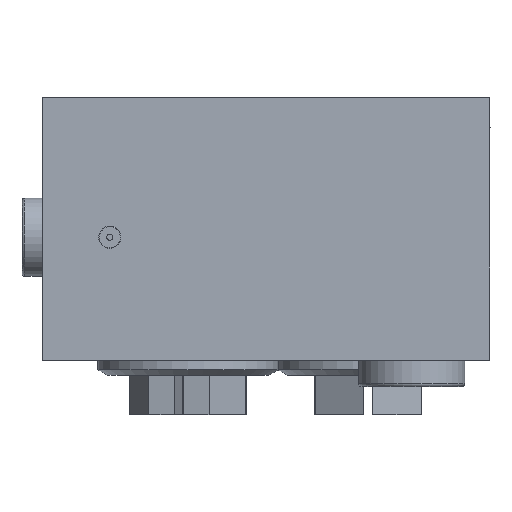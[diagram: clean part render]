
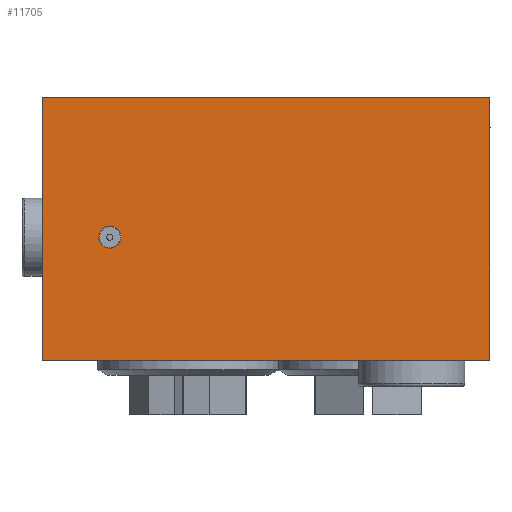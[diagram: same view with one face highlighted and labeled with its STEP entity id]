
A CAD part, left-side view. The second image highlights one B-rep face of the part: STEP entity #11705.
In plain terms, the highlighted planar face has unit normal (-1, 0, 0).
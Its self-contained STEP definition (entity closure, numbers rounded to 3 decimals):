
#235 = CARTESIAN_POINT ( 'NONE',  ( -136., 0., -47. ) ) ;
#356 = EDGE_CURVE ( 'NONE', #17151, #5555, #2697, .T. ) ;
#449 = EDGE_LOOP ( 'NONE', ( #20111 ) ) ;
#730 = AXIS2_PLACEMENT_3D ( 'NONE', #3955, #12158, #18571 ) ;
#1223 = DIRECTION ( 'NONE',  ( 0., -1., 0. ) ) ;
#1794 = CARTESIAN_POINT ( 'NONE',  ( -136., -12., -25. ) ) ;
#2288 = EDGE_CURVE ( 'NONE', #3109, #10561, #3446, .T. ) ;
#2697 = LINE ( 'NONE', #9433, #16256 ) ;
#3109 = VERTEX_POINT ( 'NONE', #4312 ) ;
#3446 = LINE ( 'NONE', #6798, #6178 ) ;
#3741 = DIRECTION ( 'NONE',  ( 0., 0., 1. ) ) ;
#3955 = CARTESIAN_POINT ( 'NONE',  ( -136., 0., -47. ) ) ;
#4312 = CARTESIAN_POINT ( 'NONE',  ( -136., 0., -47. ) ) ;
#5555 = VERTEX_POINT ( 'NONE', #16138 ) ;
#5605 = EDGE_CURVE ( 'NONE', #3109, #17151, #11827, .T. ) ;
#5729 = DIRECTION ( 'NONE',  ( 0., 0., 1. ) ) ;
#5732 = PLANE ( 'NONE',  #730 ) ;
#6050 = CARTESIAN_POINT ( 'NONE',  ( -136., 0., 0. ) ) ;
#6178 = VECTOR ( 'NONE', #3741, 1000. ) ;
#6798 = CARTESIAN_POINT ( 'NONE',  ( -136., 0., -47. ) ) ;
#7743 = ORIENTED_EDGE ( 'NONE', *, *, #2288, .F. ) ;
#8429 = ORIENTED_EDGE ( 'NONE', *, *, #356, .T. ) ;
#8515 = DIRECTION ( 'NONE',  ( -1., 0., 0. ) ) ;
#8596 = EDGE_LOOP ( 'NONE', ( #18281, #7743, #14200, #8429 ) ) ;
#9238 = EDGE_CURVE ( 'NONE', #10561, #5555, #15636, .T. ) ;
#9433 = CARTESIAN_POINT ( 'NONE',  ( -136., -80., -47. ) ) ;
#10280 = FACE_BOUND ( 'NONE', #449, .T. ) ;
#10561 = VERTEX_POINT ( 'NONE', #6050 ) ;
#10817 = CARTESIAN_POINT ( 'NONE',  ( -136., 0., 0. ) ) ;
#11705 = ADVANCED_FACE ( 'NONE', ( #10280, #15103 ), #5732, .T. ) ;
#11724 = DIRECTION ( 'NONE',  ( 0., -1., 0. ) ) ;
#11827 = LINE ( 'NONE', #235, #13015 ) ;
#12158 = DIRECTION ( 'NONE',  ( -1., 0., 0. ) ) ;
#12736 = VECTOR ( 'NONE', #1223, 1000. ) ;
#13015 = VECTOR ( 'NONE', #11724, 1000. ) ;
#14200 = ORIENTED_EDGE ( 'NONE', *, *, #5605, .T. ) ;
#14367 = CARTESIAN_POINT ( 'NONE',  ( -136., -12., -23. ) ) ;
#14723 = DIRECTION ( 'NONE',  ( 0., 0., 1. ) ) ;
#15103 = FACE_OUTER_BOUND ( 'NONE', #8596, .T. ) ;
#15636 = LINE ( 'NONE', #10817, #12736 ) ;
#16138 = CARTESIAN_POINT ( 'NONE',  ( -136., -80., 0. ) ) ;
#16256 = VECTOR ( 'NONE', #5729, 1000. ) ;
#17106 = AXIS2_PLACEMENT_3D ( 'NONE', #1794, #8515, #14723 ) ;
#17151 = VERTEX_POINT ( 'NONE', #20643 ) ;
#17629 = VERTEX_POINT ( 'NONE', #14367 ) ;
#18281 = ORIENTED_EDGE ( 'NONE', *, *, #9238, .F. ) ;
#18359 = EDGE_CURVE ( 'NONE', #17629, #17629, #20837, .T. ) ;
#18571 = DIRECTION ( 'NONE',  ( 0., 0., 1. ) ) ;
#20111 = ORIENTED_EDGE ( 'NONE', *, *, #18359, .F. ) ;
#20643 = CARTESIAN_POINT ( 'NONE',  ( -136., -80., -47. ) ) ;
#20837 = CIRCLE ( 'NONE', #17106, 2. ) ;
